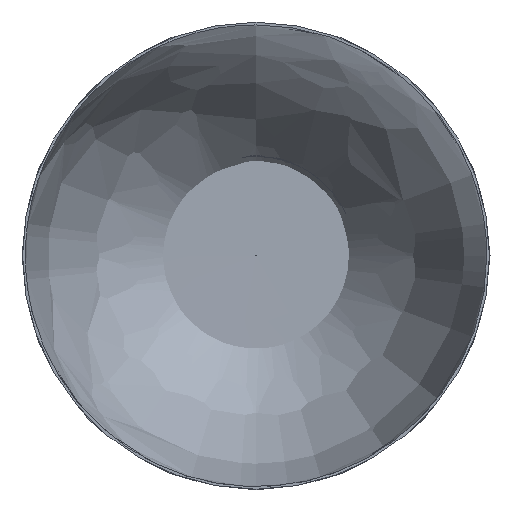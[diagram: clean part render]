
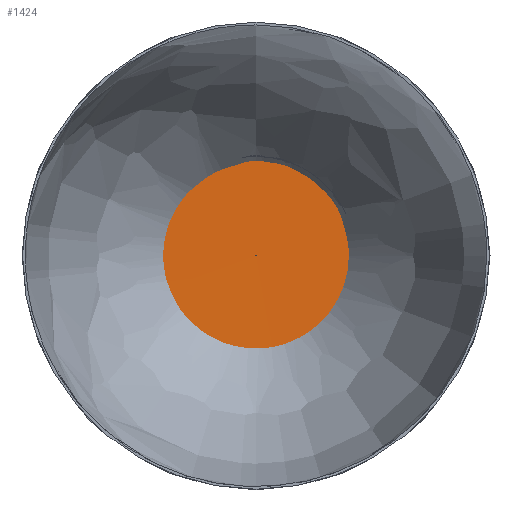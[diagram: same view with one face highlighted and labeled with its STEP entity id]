
A CAD part, front view. The second image highlights one B-rep face of the part: STEP entity #1424.
In plain terms, the highlighted conical face has half-angle 89.812 degrees and reference radius 37.83 mm.
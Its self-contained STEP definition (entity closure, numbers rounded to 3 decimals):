
#21=CONICAL_SURFACE('',#1576,37.83,1.568);
#82=B_SPLINE_CURVE_WITH_KNOTS('',3,(#3727,#3728,#3729,#3730,#3731,#3732,
#3733,#3734,#3735,#3736,#3737,#3738,#3739,#3740,#3741,#3742,#3743,#3744),
 .UNSPECIFIED.,.F.,.F.,(4,1,1,1,1,1,1,1,1,1,1,1,1,1,1,4),(0.,3.406,
6.811,10.217,13.622,15.893,18.163,
20.433,21.569,22.704,24.974,27.245,
29.515,31.785,34.056,35.758),
 .UNSPECIFIED.);
#83=B_SPLINE_CURVE_WITH_KNOTS('',3,(#3745,#3746,#3747,#3748,#3749,#3750,
#3751,#3752),.UNSPECIFIED.,.F.,.F.,(4,1,1,1,1,4),(35.758,36.326,
38.596,40.867,44.272,47.678),
 .UNSPECIFIED.);
#240=FACE_OUTER_BOUND('',#330,.T.);
#330=EDGE_LOOP('',(#1195,#1196,#1197,#1198,#1199));
#434=LINE('',#3823,#528);
#528=VECTOR('',#1847,37.83);
#595=CIRCLE('',#1577,0.006);
#692=VERTEX_POINT('',#3701);
#694=VERTEX_POINT('',#3726);
#696=VERTEX_POINT('',#3821);
#869=EDGE_CURVE('',#692,#694,#82,.T.);
#870=EDGE_CURVE('',#694,#692,#83,.T.);
#872=EDGE_CURVE('',#696,#696,#595,.T.);
#873=EDGE_CURVE('',#696,#694,#434,.T.);
#1195=ORIENTED_EDGE('',*,*,#872,.F.);
#1196=ORIENTED_EDGE('',*,*,#873,.T.);
#1197=ORIENTED_EDGE('',*,*,#869,.F.);
#1198=ORIENTED_EDGE('',*,*,#870,.F.);
#1199=ORIENTED_EDGE('',*,*,#873,.F.);
#1424=ADVANCED_FACE('',(#240),#21,.F.);
#1576=AXIS2_PLACEMENT_3D('',#3820,#1843,#1844);
#1577=AXIS2_PLACEMENT_3D('',#3822,#1845,#1846);
#1843=DIRECTION('center_axis',(0.,-1.,0.));
#1844=DIRECTION('ref_axis',(1.,0.,0.));
#1845=DIRECTION('center_axis',(0.,-1.,0.));
#1846=DIRECTION('ref_axis',(1.,0.,0.));
#1847=DIRECTION('',(-1.,-0.003,0.));
#3701=CARTESIAN_POINT('',(0.,239.073,74.456));
#3726=CARTESIAN_POINT('',(-74.456,239.073,0.001));
#3727=CARTESIAN_POINT('Ctrl Pts',(0.,239.073,
74.456));
#3728=CARTESIAN_POINT('Ctrl Pts',(11.138,239.073,74.456));
#3729=CARTESIAN_POINT('Ctrl Pts',(33.41,239.073,69.378));
#3730=CARTESIAN_POINT('Ctrl Pts',(60.201,239.073,48.009));
#3731=CARTESIAN_POINT('Ctrl Pts',(75.074,239.073,17.132));
#3732=CARTESIAN_POINT('Ctrl Pts',(75.066,239.073,-13.325));
#3733=CARTESIAN_POINT('Ctrl Pts',(65.445,239.073,-37.787));
#3734=CARTESIAN_POINT('Ctrl Pts',(51.408,239.073,-55.403));
#3735=CARTESIAN_POINT('Ctrl Pts',(35.891,239.073,-65.975));
#3736=CARTESIAN_POINT('Ctrl Pts',(22.028,239.073,-71.412));
#3737=CARTESIAN_POINT('Ctrl Pts',(7.508,239.073,-74.731));
#3738=CARTESIAN_POINT('Ctrl Pts',(-11.264,239.073,-74.731));
#3739=CARTESIAN_POINT('Ctrl Pts',(-32.793,239.073,-68.091));
#3740=CARTESIAN_POINT('Ctrl Pts',(-51.404,239.073,-55.4));
#3741=CARTESIAN_POINT('Ctrl Pts',(-65.452,239.073,-37.787));
#3742=CARTESIAN_POINT('Ctrl Pts',(-72.994,239.073,-18.565));
#3743=CARTESIAN_POINT('Ctrl Pts',(-74.455,239.073,-5.568));
#3744=CARTESIAN_POINT('Ctrl Pts',(-74.456,239.073,0.001));
#3745=CARTESIAN_POINT('Ctrl Pts',(-74.456,239.073,0.001));
#3746=CARTESIAN_POINT('Ctrl Pts',(-74.457,239.073,1.858));
#3747=CARTESIAN_POINT('Ctrl Pts',(-74.112,239.073,11.14));
#3748=CARTESIAN_POINT('Ctrl Pts',(-70.348,239.073,27.61));
#3749=CARTESIAN_POINT('Ctrl Pts',(-57.218,239.073,50.38));
#3750=CARTESIAN_POINT('Ctrl Pts',(-33.411,239.073,69.382));
#3751=CARTESIAN_POINT('Ctrl Pts',(-11.138,239.073,74.456));
#3752=CARTESIAN_POINT('Ctrl Pts',(0.,239.073,
74.456));
#3820=CARTESIAN_POINT('Origin',(0.,239.193,0.));
#3821=CARTESIAN_POINT('',(-0.006,239.317,0.));
#3822=CARTESIAN_POINT('Origin',(0.,239.317,0.));
#3823=CARTESIAN_POINT('',(-37.83,239.193,0.));
